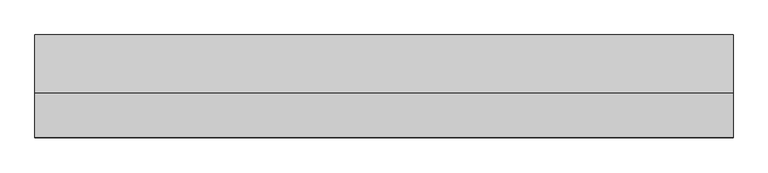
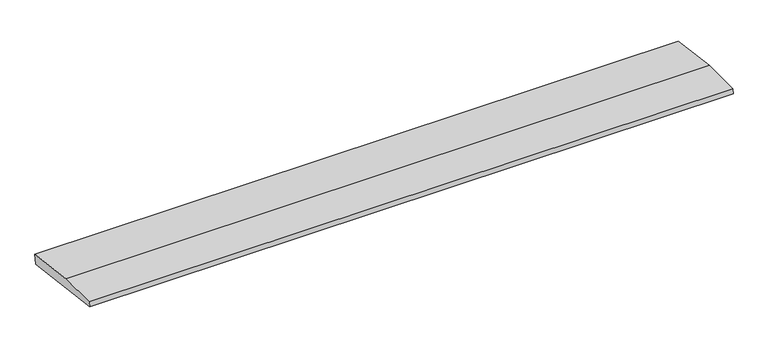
"""IFC4 building model written with IfcOpenShell, lengths in millimetres: beam geometry, weatherboad : weatherboad."""

from ifc_helpers import new_model, si_unit, frame, origin, place, context, project, spatial, polyline, outline, extrude, source, transform, mapped, element, save


def beam_d979e58d(model_context):
    return source(origin(), model_context, "Body", "SweptSolid", [
        extrude(outline(polyline([(0.0, -9.143159), (1.1226388, 0.0), (79.0749747, 0.0), (180.9387048, -12.5072934), (178.6231873, -31.3656703), (0.0, -9.143159)])), frame((-614.572992, 0.0, 0.0), z_axis=(1.0, 0.0, 0.0), x_axis=(0.0, 1.0, 0.0)), (0.0, 0.0, 1.0), 1229.145984),
    ])


if __name__ == "__main__":
    model = new_model("IFC4")
    model_context = context("Model", 3, world=origin())
    ifc_project = project(units=[si_unit("LENGTHUNIT", "METRE", prefix="MILLI")], contexts=[model_context])
    site = spatial("IfcSite", under=ifc_project)
    building = spatial("IfcBuilding", under=site)
    placement = place(None, origin())
    beam_shape = beam_d979e58d(model_context)
    element("IfcBeam", 1, ObjectType="weatherboad : weatherboad", at=placement, inside=building, context=model_context, shape_type="MappedRepresentation", body=[
        mapped(beam_shape, transform((0.0, 0.0, 0.0), x_axis=(1.0, 0.0, 0.0), y_axis=(0.0, 1.0, 0.0), z_axis=(0.0, 0.0, 1.0))),
    ])
    save(model, "model.ifc")
